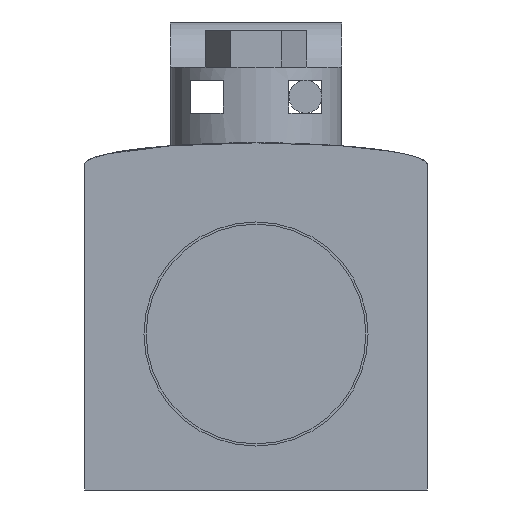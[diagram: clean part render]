
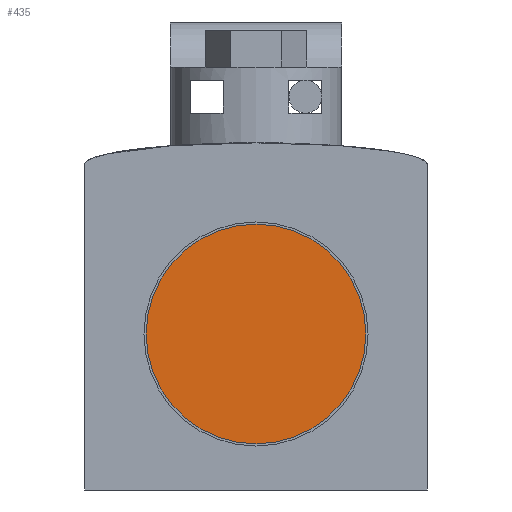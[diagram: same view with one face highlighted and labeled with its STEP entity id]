
A CAD part, front view. The second image highlights one B-rep face of the part: STEP entity #435.
In plain terms, the highlighted planar face has unit normal (0, -1, 0).
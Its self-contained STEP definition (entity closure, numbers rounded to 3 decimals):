
#101 = CIRCLE ( 'NONE', #10478, 10. ) ;
#435 = ADVANCED_FACE ( 'NONE', ( #14707 ), #4119, .F. ) ;
#690 = EDGE_CURVE ( 'NONE', #8489, #14280, #1444, .T. ) ;
#787 = DIRECTION ( 'NONE',  ( 0., 1., 0. ) ) ;
#1444 = CIRCLE ( 'NONE', #1932, 10. ) ;
#1932 = AXIS2_PLACEMENT_3D ( 'NONE', #10445, #15168, #4569 ) ;
#2014 = EDGE_CURVE ( 'NONE', #14280, #8489, #101, .T. ) ;
#2643 = CARTESIAN_POINT ( 'NONE',  ( 0., -24., 12. ) ) ;
#3930 = AXIS2_PLACEMENT_3D ( 'NONE', #4345, #787, #14937 ) ;
#4119 = PLANE ( 'NONE',  #3930 ) ;
#4345 = CARTESIAN_POINT ( 'NONE',  ( 0., -24., 12. ) ) ;
#4519 = CARTESIAN_POINT ( 'NONE',  ( 0., -24., -8. ) ) ;
#4569 = DIRECTION ( 'NONE',  ( 0., 0., 1. ) ) ;
#7108 = EDGE_LOOP ( 'NONE', ( #11235, #15300 ) ) ;
#7754 = CARTESIAN_POINT ( 'NONE',  ( 0., -24., 2. ) ) ;
#8489 = VERTEX_POINT ( 'NONE', #4519 ) ;
#9225 = DIRECTION ( 'NONE',  ( 0., 0., 1. ) ) ;
#10394 = DIRECTION ( 'NONE',  ( 0., 1., 0. ) ) ;
#10445 = CARTESIAN_POINT ( 'NONE',  ( 0., -24., 2. ) ) ;
#10478 = AXIS2_PLACEMENT_3D ( 'NONE', #7754, #10394, #9225 ) ;
#11235 = ORIENTED_EDGE ( 'NONE', *, *, #2014, .F. ) ;
#14280 = VERTEX_POINT ( 'NONE', #2643 ) ;
#14707 = FACE_OUTER_BOUND ( 'NONE', #7108, .T. ) ;
#14937 = DIRECTION ( 'NONE',  ( 0., 0., 1. ) ) ;
#15168 = DIRECTION ( 'NONE',  ( 0., 1., 0. ) ) ;
#15300 = ORIENTED_EDGE ( 'NONE', *, *, #690, .F. ) ;
